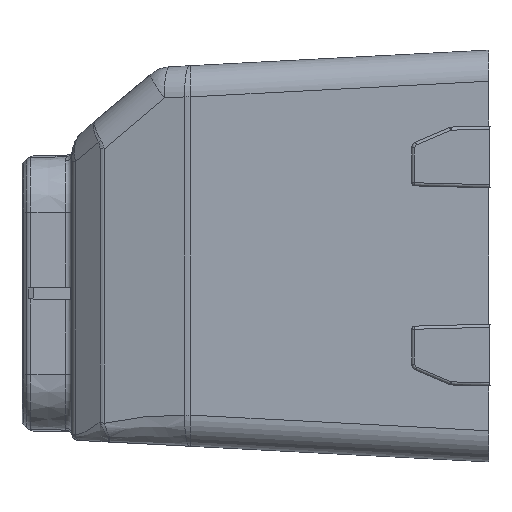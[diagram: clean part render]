
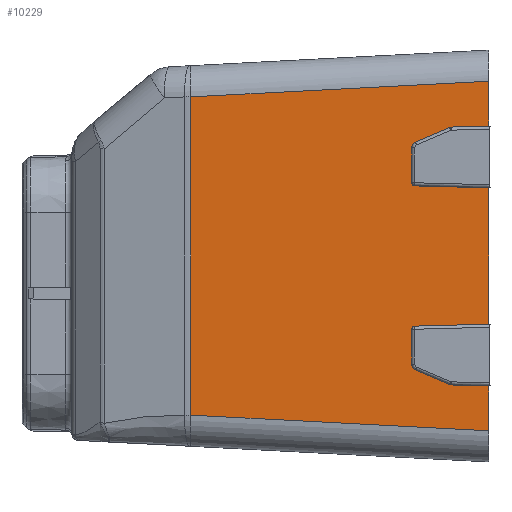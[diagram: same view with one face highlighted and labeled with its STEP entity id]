
A CAD part, left-side view. The second image highlights one B-rep face of the part: STEP entity #10229.
In plain terms, the highlighted planar face has unit normal (-0.999, 0.052, 0).
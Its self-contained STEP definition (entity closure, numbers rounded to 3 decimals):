
#503=FACE_OUTER_BOUND('',#1112,.T.);
#1112=EDGE_LOOP('',(#6891,#6892,#6893,#6894,#6895,#6896,#6897,#6898,#6899,
#6900,#6901,#6902,#6903,#6904,#6905,#6906,#6907,#6908));
#1822=CIRCLE('',#10862,0.5);
#1823=CIRCLE('',#10863,0.5);
#2220=LINE('',#15178,#3234);
#2221=LINE('',#15180,#3235);
#2222=LINE('',#15182,#3236);
#2223=LINE('',#15186,#3237);
#2224=LINE('',#15188,#3238);
#2225=LINE('',#15190,#3239);
#2226=LINE('',#15192,#3240);
#2227=LINE('',#15194,#3241);
#2228=LINE('',#15196,#3242);
#2229=LINE('',#15198,#3243);
#2230=LINE('',#15200,#3244);
#2231=LINE('',#15202,#3245);
#2232=LINE('',#15204,#3246);
#2233=LINE('',#15206,#3247);
#2234=LINE('',#15208,#3248);
#2235=LINE('',#15209,#3249);
#3234=VECTOR('',#11910,1000.);
#3235=VECTOR('',#11911,1000.);
#3236=VECTOR('',#11912,1000.);
#3237=VECTOR('',#11915,1000.);
#3238=VECTOR('',#11916,1000.);
#3239=VECTOR('',#11917,1000.);
#3240=VECTOR('',#11918,1000.);
#3241=VECTOR('',#11919,1000.);
#3242=VECTOR('',#11920,1000.);
#3243=VECTOR('',#11921,1000.);
#3244=VECTOR('',#11922,1000.);
#3245=VECTOR('',#11923,1000.);
#3246=VECTOR('',#11924,1000.);
#3247=VECTOR('',#11925,1000.);
#3248=VECTOR('',#11926,1000.);
#3249=VECTOR('',#11927,1000.);
#4292=VERTEX_POINT('',#15174);
#4293=VERTEX_POINT('',#15175);
#4294=VERTEX_POINT('',#15177);
#4295=VERTEX_POINT('',#15179);
#4296=VERTEX_POINT('',#15181);
#4297=VERTEX_POINT('',#15183);
#4298=VERTEX_POINT('',#15185);
#4299=VERTEX_POINT('',#15187);
#4300=VERTEX_POINT('',#15189);
#4301=VERTEX_POINT('',#15191);
#4302=VERTEX_POINT('',#15193);
#4303=VERTEX_POINT('',#15195);
#4304=VERTEX_POINT('',#15197);
#4305=VERTEX_POINT('',#15199);
#4306=VERTEX_POINT('',#15201);
#4307=VERTEX_POINT('',#15203);
#4308=VERTEX_POINT('',#15205);
#4309=VERTEX_POINT('',#15207);
#5302=EDGE_CURVE('',#4292,#4293,#1822,.T.);
#5303=EDGE_CURVE('',#4293,#4294,#2220,.T.);
#5304=EDGE_CURVE('',#4295,#4294,#2221,.T.);
#5305=EDGE_CURVE('',#4296,#4295,#2222,.T.);
#5306=EDGE_CURVE('',#4297,#4296,#1823,.T.);
#5307=EDGE_CURVE('',#4298,#4297,#2223,.T.);
#5308=EDGE_CURVE('',#4299,#4298,#2224,.T.);
#5309=EDGE_CURVE('',#4299,#4300,#2225,.T.);
#5310=EDGE_CURVE('',#4301,#4300,#2226,.T.);
#5311=EDGE_CURVE('',#4302,#4301,#2227,.T.);
#5312=EDGE_CURVE('',#4302,#4303,#2228,.T.);
#5313=EDGE_CURVE('',#4303,#4304,#2229,.T.);
#5314=EDGE_CURVE('',#4304,#4305,#2230,.T.);
#5315=EDGE_CURVE('',#4306,#4305,#2231,.T.);
#5316=EDGE_CURVE('',#4306,#4307,#2232,.T.);
#5317=EDGE_CURVE('',#4308,#4307,#2233,.T.);
#5318=EDGE_CURVE('',#4308,#4309,#2234,.T.);
#5319=EDGE_CURVE('',#4309,#4292,#2235,.T.);
#6891=ORIENTED_EDGE('',*,*,#5302,.T.);
#6892=ORIENTED_EDGE('',*,*,#5303,.T.);
#6893=ORIENTED_EDGE('',*,*,#5304,.F.);
#6894=ORIENTED_EDGE('',*,*,#5305,.F.);
#6895=ORIENTED_EDGE('',*,*,#5306,.F.);
#6896=ORIENTED_EDGE('',*,*,#5307,.F.);
#6897=ORIENTED_EDGE('',*,*,#5308,.F.);
#6898=ORIENTED_EDGE('',*,*,#5309,.T.);
#6899=ORIENTED_EDGE('',*,*,#5310,.F.);
#6900=ORIENTED_EDGE('',*,*,#5311,.F.);
#6901=ORIENTED_EDGE('',*,*,#5312,.T.);
#6902=ORIENTED_EDGE('',*,*,#5313,.T.);
#6903=ORIENTED_EDGE('',*,*,#5314,.T.);
#6904=ORIENTED_EDGE('',*,*,#5315,.F.);
#6905=ORIENTED_EDGE('',*,*,#5316,.T.);
#6906=ORIENTED_EDGE('',*,*,#5317,.F.);
#6907=ORIENTED_EDGE('',*,*,#5318,.T.);
#6908=ORIENTED_EDGE('',*,*,#5319,.T.);
#9914=PLANE('',#10861);
#10229=ADVANCED_FACE('',(#503),#9914,.T.);
#10861=AXIS2_PLACEMENT_3D('',#15173,#11906,#11907);
#10862=AXIS2_PLACEMENT_3D('',#15176,#11908,#11909);
#10863=AXIS2_PLACEMENT_3D('',#15184,#11913,#11914);
#11906=DIRECTION('center_axis',(-0.999,0.052,0.));
#11907=DIRECTION('ref_axis',(-0.052,-0.999,0.));
#11908=DIRECTION('center_axis',(0.999,-0.052,0.));
#11909=DIRECTION('ref_axis',(0.052,0.999,0.));
#11910=DIRECTION('',(-0.052,-0.998,0.026));
#11911=DIRECTION('',(0.,0.,-1.));
#11912=DIRECTION('',(-0.052,-0.998,-0.026));
#11913=DIRECTION('center_axis',(-0.999,0.052,0.));
#11914=DIRECTION('ref_axis',(0.052,0.999,0.));
#11915=DIRECTION('',(0.,0.,-1.));
#11916=DIRECTION('',(0.052,0.998,-0.026));
#11917=DIRECTION('',(0.,0.,1.));
#11918=DIRECTION('',(0.052,0.998,-0.026));
#11919=DIRECTION('',(0.,0.,-1.));
#11920=DIRECTION('',(0.052,0.997,-0.052));
#11921=DIRECTION('',(0.,0.,-1.));
#11922=DIRECTION('',(-0.052,-0.997,-0.052));
#11923=DIRECTION('',(0.,0.,-1.));
#11924=DIRECTION('',(0.052,0.998,0.026));
#11925=DIRECTION('',(0.,0.,-1.));
#11926=DIRECTION('',(0.052,0.998,0.026));
#11927=DIRECTION('',(0.,0.,1.));
#15173=CARTESIAN_POINT('Origin',(-60.,10.,28.5));
#15174=CARTESIAN_POINT('',(-62.873,-44.816,-5.737));
#15175=CARTESIAN_POINT('',(-62.898,-45.303,-5.237));
#15176=CARTESIAN_POINT('Origin',(-62.899,-45.316,-5.737));
#15177=CARTESIAN_POINT('',(-63.497,-56.8,-4.936));
#15178=CARTESIAN_POINT('',(-62.873,-44.816,-5.25));
#15179=CARTESIAN_POINT('',(-63.497,-56.8,16.936));
#15180=CARTESIAN_POINT('',(-63.501,-56.8,28.5));
#15181=CARTESIAN_POINT('',(-62.898,-45.303,17.237));
#15182=CARTESIAN_POINT('',(-62.873,-44.816,17.25));
#15183=CARTESIAN_POINT('',(-62.873,-44.816,17.737));
#15184=CARTESIAN_POINT('Origin',(-62.899,-45.316,17.737));
#15185=CARTESIAN_POINT('',(-62.873,-44.816,19.));
#15186=CARTESIAN_POINT('',(-62.873,-44.816,6.));
#15187=CARTESIAN_POINT('',(-63.396,-54.803,19.262));
#15188=CARTESIAN_POINT('',(-62.873,-44.816,19.));
#15189=CARTESIAN_POINT('',(-63.396,-54.803,26.762));
#15190=CARTESIAN_POINT('',(-63.396,-54.803,6.));
#15191=CARTESIAN_POINT('',(-63.497,-56.8,26.814));
#15192=CARTESIAN_POINT('',(-62.873,-44.816,26.5));
#15193=CARTESIAN_POINT('',(-63.501,-56.8,34.008));
#15194=CARTESIAN_POINT('',(-63.501,-56.8,28.5));
#15195=CARTESIAN_POINT('',(-60.999,-9.053,31.505));
#15196=CARTESIAN_POINT('',(-61.012,-9.313,31.519));
#15197=CARTESIAN_POINT('',(-60.999,-9.053,-19.505));
#15198=CARTESIAN_POINT('',(-60.999,-9.053,28.5));
#15199=CARTESIAN_POINT('',(-63.501,-56.8,-22.008));
#15200=CARTESIAN_POINT('',(-59.872,12.45,-18.378));
#15201=CARTESIAN_POINT('',(-63.497,-56.8,-14.814));
#15202=CARTESIAN_POINT('',(-63.501,-56.8,28.5));
#15203=CARTESIAN_POINT('',(-63.396,-54.803,-14.762));
#15204=CARTESIAN_POINT('',(-62.873,-44.816,-14.5));
#15205=CARTESIAN_POINT('',(-63.396,-54.803,-7.262));
#15206=CARTESIAN_POINT('',(-63.396,-54.803,6.));
#15207=CARTESIAN_POINT('',(-62.873,-44.816,-7.));
#15208=CARTESIAN_POINT('',(-62.873,-44.816,-7.));
#15209=CARTESIAN_POINT('',(-62.873,-44.816,6.));
